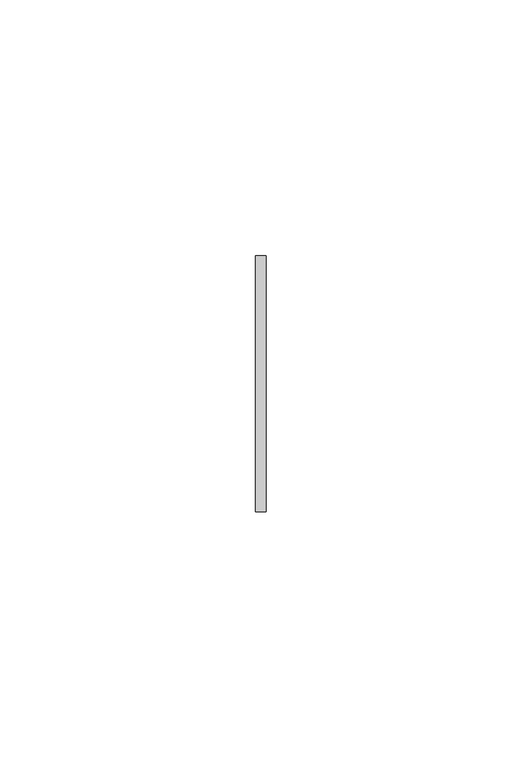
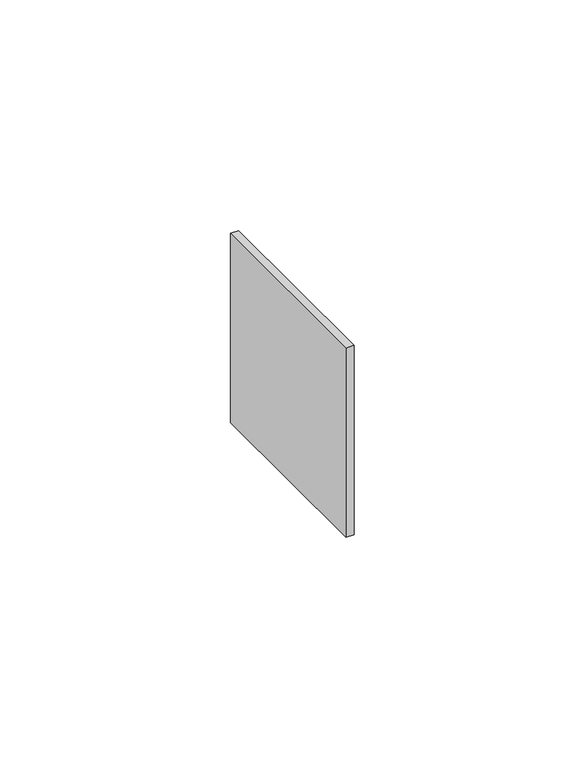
"""IFC4 building model written with IfcOpenShell, lengths in millimetres: duct fitting geometry, Prihoda Square Cap : Prihoda Square Cap."""

from ifc_helpers import new_model, si_unit, frame, origin, place, context, project, spatial, polyline, outline, extrude, source, transform, mapped, element, save


def duct_fitting_edcd9fdf(model_context):
    return source(origin(), model_context, "Body", "SweptSolid", [
        extrude(outline(polyline([(2.0, 25.0), (2.0, -25.0), (0.0, -25.0), (0.0, 25.0), (2.0, 25.0)])), frame((0.0, 0.0, -25.0), z_axis=(0.0, 0.0, 1.0), x_axis=(1.0, 0.0, 0.0)), (0.0, 0.0, 1.0), 50.0),
    ])


if __name__ == "__main__":
    model = new_model("IFC4")
    model_context = context("Model", 3, world=origin())
    ifc_project = project(units=[si_unit("LENGTHUNIT", "METRE", prefix="MILLI")], contexts=[model_context])
    site = spatial("IfcSite", under=ifc_project)
    building = spatial("IfcBuilding", under=site)
    placement = place(None, origin())
    duct_fitting_shape = duct_fitting_edcd9fdf(model_context)
    element("IfcDuctFitting", 1, ObjectType="Prihoda Square Cap : Prihoda Square Cap", at=placement, inside=building, context=model_context, shape_type="MappedRepresentation", body=[
        mapped(duct_fitting_shape, transform((0.0, 0.0, 0.0), x_axis=(1.0, 0.0, 0.0), y_axis=(0.0, 1.0, 0.0), z_axis=(0.0, 0.0, 1.0))),
    ])
    save(model, "model.ifc")
